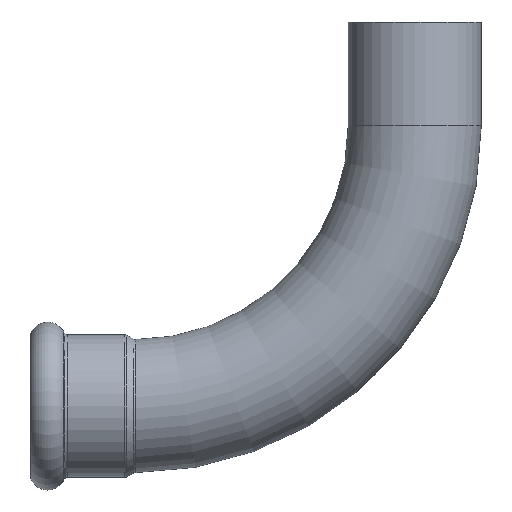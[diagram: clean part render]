
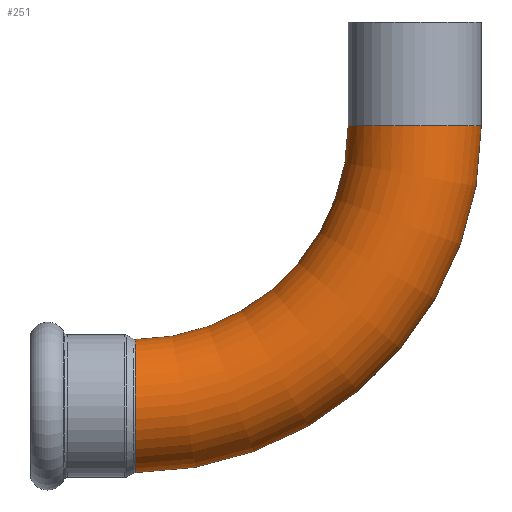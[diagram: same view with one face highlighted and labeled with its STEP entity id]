
A CAD part, top view. The second image highlights one B-rep face of the part: STEP entity #251.
In plain terms, the highlighted toroidal (fillet/blend) face has major radius 89 mm and minor radius 21.15 mm.
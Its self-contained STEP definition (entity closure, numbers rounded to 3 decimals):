
#52 = CARTESIAN_POINT ( 'NONE',  ( 0.249, -92.672, 20.831 ) ) ;
#65 = AXIS2_PLACEMENT_3D ( 'NONE', #337, #2987, #156 ) ;
#127 = VERTEX_POINT ( 'NONE', #1807 ) ;
#156 = DIRECTION ( 'NONE',  ( 1., 0., 0. ) ) ;
#195 = CARTESIAN_POINT ( 'NONE',  ( 0.252, -70.823, 10.898 ) ) ;
#251 = ADVANCED_FACE ( 'NONE', ( #3281 ), #2898, .T. ) ;
#266 = ORIENTED_EDGE ( 'NONE', *, *, #3297, .F. ) ;
#271 = CARTESIAN_POINT ( 'NONE',  ( 0.248, -110.15, 1.355 ) ) ;
#300 = DIRECTION ( 'NONE',  ( 1., 0., 0. ) ) ;
#320 = CARTESIAN_POINT ( 'NONE',  ( 0.248, -106.436, 11.99 ) ) ;
#337 = CARTESIAN_POINT ( 'NONE',  ( 0., 0., 0. ) ) ;
#338 = DIRECTION ( 'NONE',  ( 0., 0., 1. ) ) ;
#364 = ORIENTED_EDGE ( 'NONE', *, *, #868, .T. ) ;
#453 = CARTESIAN_POINT ( 'NONE',  ( 0.249, -87.335, 21.095 ) ) ;
#486 = CARTESIAN_POINT ( 'NONE',  ( 0.252, -68.33, 4.68 ) ) ;
#513 = CARTESIAN_POINT ( 'NONE',  ( 0.249, -92.34, 20.887 ) ) ;
#521 = ORIENTED_EDGE ( 'NONE', *, *, #2815, .F. ) ;
#528 = CARTESIAN_POINT ( 'NONE',  ( 0.248, -104.768, 14.111 ) ) ;
#565 = CARTESIAN_POINT ( 'NONE',  ( 0.248, -109.107, 6.593 ) ) ;
#572 = CARTESIAN_POINT ( 'NONE',  ( 0., 0., 0. ) ) ;
#613 = CARTESIAN_POINT ( 'NONE',  ( 0., 0., 0. ) ) ;
#622 = VERTEX_POINT ( 'NONE', #2066 ) ;
#627 = DIRECTION ( 'NONE',  ( -1., 0., 0. ) ) ;
#683 = VERTEX_POINT ( 'NONE', #852 ) ;
#687 = CARTESIAN_POINT ( 'NONE',  ( 0.251, -74.651, 15.553 ) ) ;
#699 = ORIENTED_EDGE ( 'NONE', *, *, #1702, .T. ) ;
#703 = CARTESIAN_POINT ( 'NONE',  ( 0.25, -84.654, 20.743 ) ) ;
#723 = CARTESIAN_POINT ( 'NONE',  ( 0.249, -88.674, 21.158 ) ) ;
#757 = CARTESIAN_POINT ( 'NONE',  ( 0.251, -74.162, 15.087 ) ) ;
#761 = B_SPLINE_CURVE_WITH_KNOTS ( 'NONE', 3,
 ( #1639, #2974, #1186, #2454, #1687 ),
 .UNSPECIFIED., .F., .F.,
 ( 4, 1, 4 ),
 ( 0., 0.001, 0.002 ),
 .UNSPECIFIED. ) ;
#775 = CARTESIAN_POINT ( 'NONE',  ( 0.249, -93.335, 20.704 ) ) ;
#830 = DIRECTION ( 'NONE',  ( 0., 0., 1. ) ) ;
#839 = CARTESIAN_POINT ( 'NONE',  ( 0.248, -105.212, 13.599 ) ) ;
#852 = CARTESIAN_POINT ( 'NONE',  ( 110.15, 0., 0. ) ) ;
#868 = EDGE_CURVE ( 'NONE', #127, #622, #761, .T. ) ;
#967 = CARTESIAN_POINT ( 'NONE',  ( 0.252, -69.614, 8.484 ) ) ;
#983 = CARTESIAN_POINT ( 'NONE',  ( 0.25, -80.836, 19.523 ) ) ;
#1019 = CARTESIAN_POINT ( 'NONE',  ( 0.251, -73.228, 14.108 ) ) ;
#1063 = VERTEX_POINT ( 'NONE', #1271 ) ;
#1083 = CARTESIAN_POINT ( 'NONE',  ( 0.249, -93.667, 20.631 ) ) ;
#1096 = CARTESIAN_POINT ( 'NONE',  ( 0.248, -110.021, 2.688 ) ) ;
#1138 = ORIENTED_EDGE ( 'NONE', *, *, #2616, .T. ) ;
#1186 = CARTESIAN_POINT ( 'NONE',  ( 0.252, -67.866, 1.009 ) ) ;
#1249 = B_SPLINE_CURVE_WITH_KNOTS ( 'NONE', 3,
 ( #2531, #1542, #486, #2269, #2302, #967, #1990, #195, #3325, #2579, #1019, #757, #687, #1788, #1472, #3374, #1974, #983, #3028, #3046, #703, #2782, #453, #723, #1818, #2852, #513, #52, #775, #1083, #2356, #1316, #2102, #1571, #1805, #1300, #1336, #2659, #1851, #1553, #528, #839, #2866, #320, #2883, #2624, #2592, #565, #1351, #1835, #1096, #271, #1870 ),
 .UNSPECIFIED., .F., .F.,
 ( 4, 2, 2, 2, 2, 2, 2, 2, 2, 2, 2, 2, 1, 2, 2, 2, 2, 2, 2, 2, 2, 2, 2, 2, 2, 2, 4 ),
 ( 0.002, 0.006, 0.008, 0.01, 0.014, 0.016, 0.018, 0.022, 0.024, 0.026, 0.03, 0.032, 0.035, 0.037, 0.038, 0.039, 0.043, 0.045, 0.046, 0.047, 0.051, 0.053, 0.055, 0.059, 0.061, 0.063, 0.067 ),
 .UNSPECIFIED. ) ;
#1271 = CARTESIAN_POINT ( 'NONE',  ( 67.85, 0., 0. ) ) ;
#1300 = CARTESIAN_POINT ( 'NONE',  ( 0.248, -100.157, 17.971 ) ) ;
#1316 = CARTESIAN_POINT ( 'NONE',  ( 0.249, -96.569, 19.794 ) ) ;
#1336 = CARTESIAN_POINT ( 'NONE',  ( 0.248, -100.725, 17.605 ) ) ;
#1351 = CARTESIAN_POINT ( 'NONE',  ( 0.248, -109.485, 5.304 ) ) ;
#1405 = CARTESIAN_POINT ( 'NONE',  ( 89., 0., 0. ) ) ;
#1472 = CARTESIAN_POINT ( 'NONE',  ( 0.251, -77.26, 17.644 ) ) ;
#1542 = CARTESIAN_POINT ( 'NONE',  ( 0.252, -68.075, 3.365 ) ) ;
#1553 = CARTESIAN_POINT ( 'NONE',  ( 0.248, -103.379, 15.568 ) ) ;
#1571 = CARTESIAN_POINT ( 'NONE',  ( 0.248, -98.991, 18.654 ) ) ;
#1639 = CARTESIAN_POINT ( 'NONE',  ( 0.252, -67.85, 0. ) ) ;
#1641 = AXIS2_PLACEMENT_3D ( 'NONE', #572, #830, #300 ) ;
#1645 = AXIS2_PLACEMENT_3D ( 'NONE', #1405, #3261, #627 ) ;
#1687 = CARTESIAN_POINT ( 'NONE',  ( 0.252, -67.946, 2.016 ) ) ;
#1702 = EDGE_CURVE ( 'NONE', #1881, #683, #2352, .T. ) ;
#1788 = CARTESIAN_POINT ( 'NONE',  ( 0.251, -76.171, 16.869 ) ) ;
#1805 = CARTESIAN_POINT ( 'NONE',  ( 0.248, -99.867, 18.147 ) ) ;
#1807 = CARTESIAN_POINT ( 'NONE',  ( 0.252, -67.85, 0. ) ) ;
#1818 = CARTESIAN_POINT ( 'NONE',  ( 0.249, -90.012, 21.157 ) ) ;
#1835 = CARTESIAN_POINT ( 'NONE',  ( 0.248, -109.642, 4.654 ) ) ;
#1851 = CARTESIAN_POINT ( 'NONE',  ( 0.248, -102.37, 16.443 ) ) ;
#1870 = CARTESIAN_POINT ( 'NONE',  ( 0.248, -110.15, 0. ) ) ;
#1881 = VERTEX_POINT ( 'NONE', #2534 ) ;
#1974 = CARTESIAN_POINT ( 'NONE',  ( 0.25, -79.609, 18.963 ) ) ;
#1990 = CARTESIAN_POINT ( 'NONE',  ( 0.252, -69.897, 9.103 ) ) ;
#2066 = CARTESIAN_POINT ( 'NONE',  ( 0.252, -67.946, 2.016 ) ) ;
#2102 = CARTESIAN_POINT ( 'NONE',  ( 0.248, -98.394, 18.961 ) ) ;
#2269 = CARTESIAN_POINT ( 'NONE',  ( 0.252, -68.895, 6.603 ) ) ;
#2302 = CARTESIAN_POINT ( 'NONE',  ( 0.252, -69.114, 7.235 ) ) ;
#2352 = CIRCLE ( 'NONE', #1641, 110.15 ) ;
#2356 = CARTESIAN_POINT ( 'NONE',  ( 0.249, -95.306, 20.233 ) ) ;
#2454 = CARTESIAN_POINT ( 'NONE',  ( 0.252, -67.914, 1.681 ) ) ;
#2457 = CIRCLE ( 'NONE', #65, 67.85 ) ;
#2463 = EDGE_LOOP ( 'NONE', ( #1138, #699, #521, #266, #364 ) ) ;
#2492 = DIRECTION ( 'NONE',  ( 1., 0., 0. ) ) ;
#2519 = AXIS2_PLACEMENT_3D ( 'NONE', #613, #338, #2492 ) ;
#2531 = CARTESIAN_POINT ( 'NONE',  ( 0.252, -67.946, 2.016 ) ) ;
#2534 = CARTESIAN_POINT ( 'NONE',  ( 0.248, -110.15, 0. ) ) ;
#2579 = CARTESIAN_POINT ( 'NONE',  ( 0.251, -72.788, 13.6 ) ) ;
#2592 = CARTESIAN_POINT ( 'NONE',  ( 0.248, -108.885, 7.235 ) ) ;
#2616 = EDGE_CURVE ( 'NONE', #622, #1881, #1249, .T. ) ;
#2624 = CARTESIAN_POINT ( 'NONE',  ( 0.248, -108.133, 9.113 ) ) ;
#2659 = CARTESIAN_POINT ( 'NONE',  ( 0.248, -101.004, 17.417 ) ) ;
#2782 = CARTESIAN_POINT ( 'NONE',  ( 0.25, -86.66, 21.031 ) ) ;
#2815 = EDGE_CURVE ( 'NONE', #1063, #683, #2901, .T. ) ;
#2852 = CARTESIAN_POINT ( 'NONE',  ( 0.249, -91.343, 21.03 ) ) ;
#2866 = CARTESIAN_POINT ( 'NONE',  ( 0.248, -106.047, 12.537 ) ) ;
#2883 = CARTESIAN_POINT ( 'NONE',  ( 0.248, -107.52, 10.301 ) ) ;
#2898 = TOROIDAL_SURFACE ( 'NONE', #2519, 89., 21.15 ) ;
#2901 = CIRCLE ( 'NONE', #1645, 21.15 ) ;
#2974 = CARTESIAN_POINT ( 'NONE',  ( 0.252, -67.85, 0.337 ) ) ;
#2987 = DIRECTION ( 'NONE',  ( 0., 0., 1. ) ) ;
#3028 = CARTESIAN_POINT ( 'NONE',  ( 0.25, -81.458, 19.771 ) ) ;
#3046 = CARTESIAN_POINT ( 'NONE',  ( 0.25, -83.354, 20.426 ) ) ;
#3261 = DIRECTION ( 'NONE',  ( 0., 1., 0. ) ) ;
#3281 = FACE_OUTER_BOUND ( 'NONE', #2463, .T. ) ;
#3297 = EDGE_CURVE ( 'NONE', #127, #1063, #2457, .T. ) ;
#3325 = CARTESIAN_POINT ( 'NONE',  ( 0.252, -71.547, 12.021 ) ) ;
#3374 = CARTESIAN_POINT ( 'NONE',  ( 0.25, -79.005, 18.652 ) ) ;
